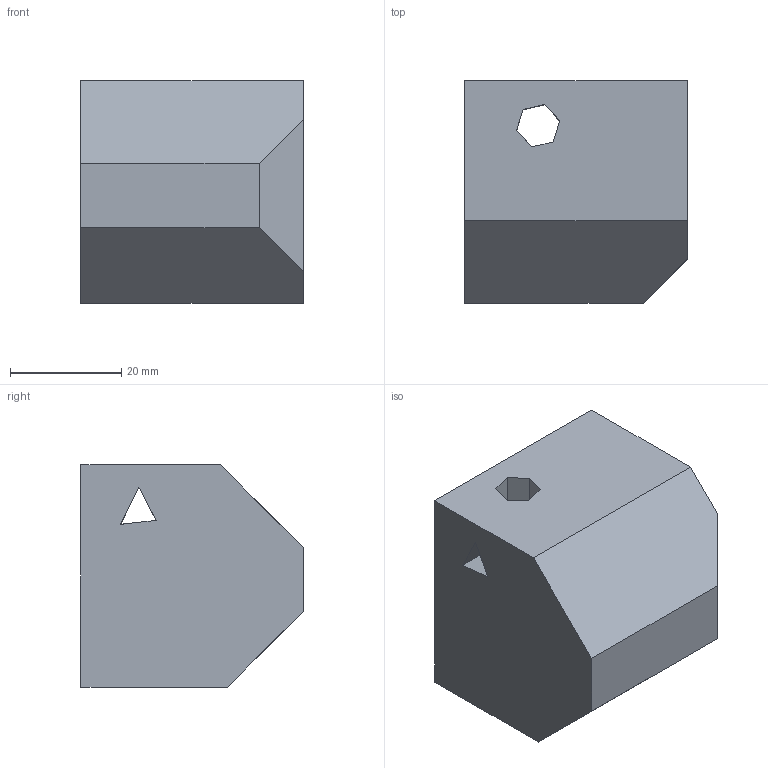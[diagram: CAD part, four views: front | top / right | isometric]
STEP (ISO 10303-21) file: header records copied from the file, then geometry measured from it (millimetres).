
FILE_DESCRIPTION(('Open CASCADE Model'),'2;1');
FILE_NAME('Open CASCADE Shape Model','2026-10-26T18:47:41',('Author'),( 'Open CASCADE'),'Open CASCADE STEP processor 7.9','Open CASCADE 7.9' ,'Unknown');
FILE_SCHEMA(('AUTOMOTIVE_DESIGN { 1 0 10303 214 1 1 1 1 }'));
Length unit declared in the file: millimetre
Products named in the file (1): Open CASCADE STEP translator 7.9 1
Bounding box: 40 x 40 x 40 mm (x, y, z)
Volume: 53033.6 mm3; surface area: 9934.3 mm2
Topology: 1 solids, 1 shells, 22 faces, 66 edges, 44 vertices
Faces by surface type: plane 22
Entity records: 1610 total; most frequent: CARTESIAN_POINT 265, DIRECTION 244, LINE 198, VECTOR 198, ORIENTED_EDGE 132, PCURVE 132, DEFINITIONAL_REPRESENTATION 132, EDGE_CURVE 66
